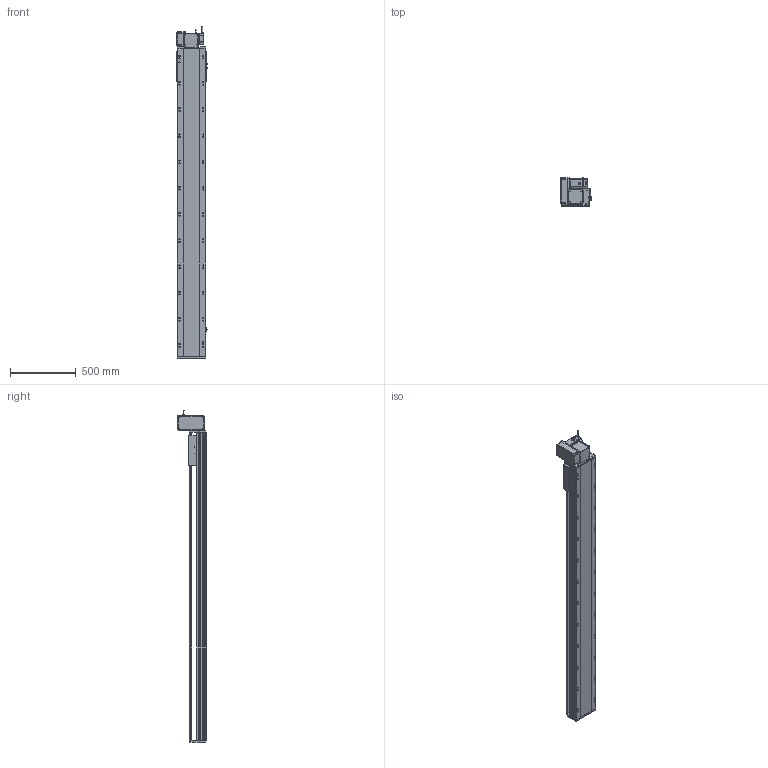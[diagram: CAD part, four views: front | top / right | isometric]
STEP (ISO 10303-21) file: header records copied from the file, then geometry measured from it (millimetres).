
FILE_DESCRIPTION (( 'STEP AP214' ), '1' );
FILE_NAME ('RTB22S-XX-2000-LW-M75-C4.STEP', '2025-12-12T06:00:32', ( '' ), ( '' ), 'SwSTEP 2.0', 'SolidWorks 2018', '' );
FILE_SCHEMA (( 'AUTOMOTIVE_DESIGN' ));
Length unit declared in the file: millimetre
Products named in the file (14): RTB22S-XX-2000-LW-M75-C4; RTB22S-GY-001耜裔^RTB22S-XX-XX-LW-M75-C4; RTH22-GY-013外置感应片^RTB22S-XX-XX-LW-M75-C4; 750W萇儂^RTB22S-XX-XX-LW-M75-C4; RTB22S-LW-々湍釱蚾饜^RTB22S-XX-XX-LW-M75-C4; RTB22S-GY-007奻裔^RTB22S-XX-XX-LW-M75-C4; RTB22S-GY-018P^RTB22S-LW-々湍釱蚾饜_RTB22S-XX-XX-LW-M75-C4; OMRON EE-SX672 传感器^RTB22S-XX-XX-LW-M75-C4; RTB22S-GY-008-M75--萇儂啣^RTB22S-LW-々湍釱蚾饜_RTB22S-XX-XX-LW-M75-C4; RTB22S-GY-014--々湍釱^RTB22S-LW-々湍釱蚾饜_RTB22S-XX-XX-LW-M75-C4; RTB22S-L-004賑釱^RTB22S-XX-XX-LW-M75-C4; RTB22S-L-011菁釱^RTB22S-XX-XX-LW-M75-C4; RTB22S-GY-017P^RTB22S-LW-々湍釱蚾饜_RTB22S-XX-XX-LW-M75-C4; RTB22S-GY-005P^RTB22S-LW-々湍釱蚾饜_RTB22S-XX-XX-LW-M75-C4
Assembly tree (16 placements, depth 3):
  RTB22S-XX-2000-LW-M75-C4
    RTB22S-L-011菁釱^RTB22S-XX-XX-LW-M75-C4
    RTB22S-GY-001耜裔^RTB22S-XX-XX-LW-M75-C4
    750W萇儂^RTB22S-XX-XX-LW-M75-C4
    RTB22S-GY-007奻裔^RTB22S-XX-XX-LW-M75-C4
    RTB22S-L-004賑釱^RTB22S-XX-XX-LW-M75-C4
    RTH22-GY-013外置感应片^RTB22S-XX-XX-LW-M75-C4
    OMRON EE-SX672 传感器^RTB22S-XX-XX-LW-M75-C4  x3
    RTB22S-LW-々湍釱蚾饜^RTB22S-XX-XX-LW-M75-C4
      RTB22S-GY-014--々湍釱^RTB22S-LW-々湍釱蚾饜_RTB22S-XX-XX-LW-M75-C4
      RTB22S-GY-017P^RTB22S-LW-々湍釱蚾饜_RTB22S-XX-XX-LW-M75-C4  x2
      RTB22S-GY-005P^RTB22S-LW-々湍釱蚾饜_RTB22S-XX-XX-LW-M75-C4
      RTB22S-GY-008-M75--萇儂啣^RTB22S-LW-々湍釱蚾饜_RTB22S-XX-XX-LW-M75-C4
      RTB22S-GY-018P^RTB22S-LW-々湍釱蚾饜_RTB22S-XX-XX-LW-M75-C4
Bounding box: 238.5 x 215.5 x 2532.2 mm (x, y, z)
Volume: 32942933.3 mm3; surface area: 3380160.6 mm2
Topology: 15 solids, 15 shells, 2055 faces, 5586 edges, 3572 vertices
Faces by surface type: plane 923, cylinder 670, bspline 296, cone 154, sphere 8, torus 4
Entity records: 55400 total; most frequent: CARTESIAN_POINT 15764, ORIENTED_EDGE 7928, DIRECTION 7698, EDGE_CURVE 3964, AXIS2_PLACEMENT_3D 2742, VERTEX_POINT 2576, VECTOR 2214, LINE 2214
